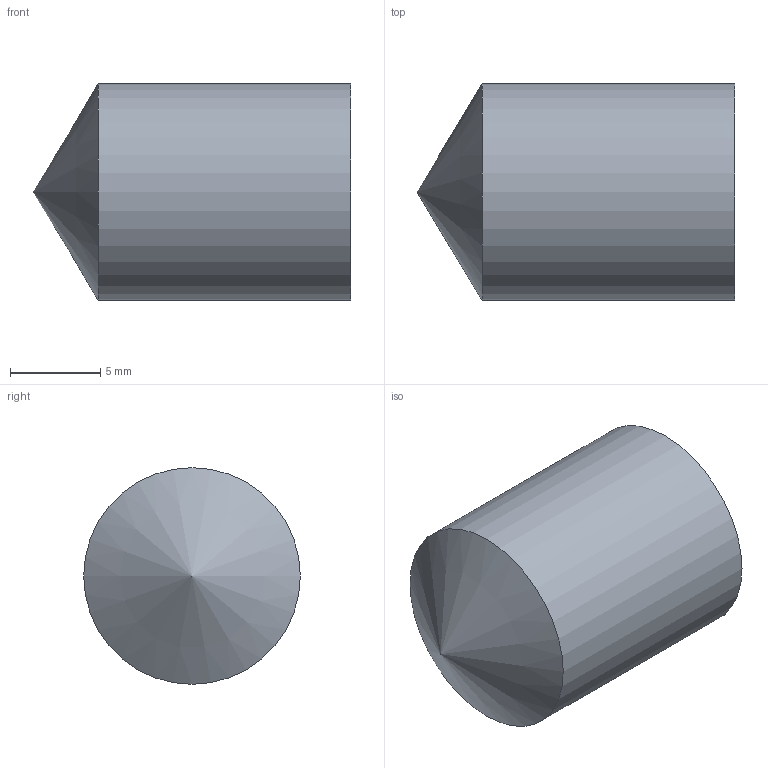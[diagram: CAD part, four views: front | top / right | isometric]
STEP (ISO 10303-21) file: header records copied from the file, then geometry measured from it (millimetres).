
FILE_DESCRIPTION(/* description */ (''),/* implementation_level */ '2;1');
FILE_NAME(/* name */ 'C:\Users\matthiask.LAMELLONET\Desktop\Bohrung_D12x14mm.stp',/* time_stamp */ '2021-07-09T09:24:35+02:00',/* author */ ('matthiask'),/* organization */ (''),/* preprocessor_version */ 'ST-DEVELOPER v18',/* originating_system */ 'Autodesk Inventor 2020',/* authorisation */ '');
FILE_SCHEMA (('AUTOMOTIVE_DESIGN { 1 0 10303 214 3 1 1 }'));
Length unit declared in the file: millimetre
Products named in the file (1): Bohrung D8x16.5
Bounding box: 17.61 x 12 x 12 mm (x, y, z)
Volume: 1719.3 mm3; surface area: 772.8 mm2
Topology: 1 solids, 1 shells, 3 faces, 7 edges, 5 vertices
Faces by surface type: cylinder 1, plane 1, cone 1
Full cylindrical faces by diameter (mm): 12 x1
Entity records: 129 total; most frequent: DIRECTION 18, CARTESIAN_POINT 15, ORIENTED_EDGE 12, AXIS2_PLACEMENT_3D 8, EDGE_CURVE 6, VERTEX_POINT 5, CIRCLE 4, FACE_OUTER_BOUND 3
